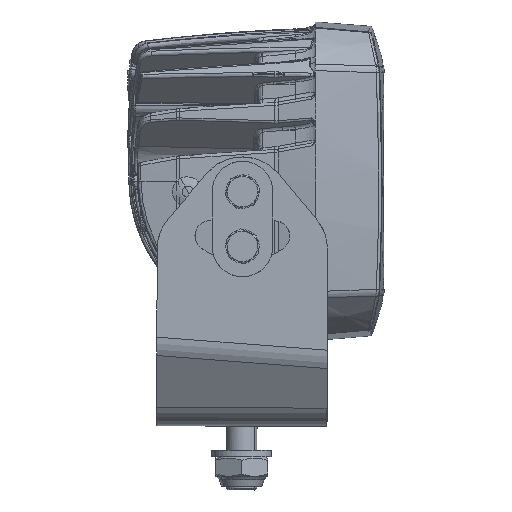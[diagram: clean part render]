
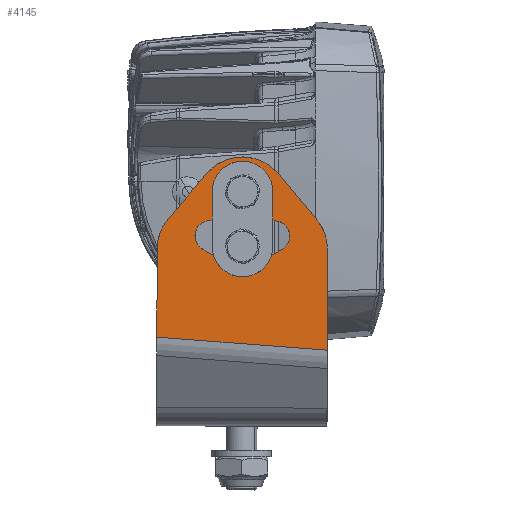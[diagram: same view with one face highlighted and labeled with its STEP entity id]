
A CAD part, front view. The second image highlights one B-rep face of the part: STEP entity #4145.
In plain terms, the highlighted planar face has unit normal (0, -1, 0).
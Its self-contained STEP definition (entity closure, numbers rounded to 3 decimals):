
#3741=AXIS2_PLACEMENT_3D('Circle Axis2P3D',#3739,#3740,$) ;
#3813=AXIS2_PLACEMENT_3D('Circle Axis2P3D',#3811,#3812,$) ;
#3861=AXIS2_PLACEMENT_3D('Circle Axis2P3D',#3859,#3860,$) ;
#3878=AXIS2_PLACEMENT_3D('Circle Axis2P3D',#3876,#3877,$) ;
#3916=AXIS2_PLACEMENT_3D('Circle Axis2P3D',#3914,#3915,$) ;
#3964=AXIS2_PLACEMENT_3D('Circle Axis2P3D',#3962,#3963,$) ;
#4012=AXIS2_PLACEMENT_3D('Circle Axis2P3D',#4010,#4011,$) ;
#4083=AXIS2_PLACEMENT_3D('Plane Axis2P3D',#4080,#4081,#4082) ;
#3476=CARTESIAN_POINT('Vertex',(30.844,-62.05,-55.625)) ;
#3699=CARTESIAN_POINT('Vertex',(-25.144,-62.05,-51.322)) ;
#3736=CARTESIAN_POINT('Vertex',(16.465,-62.05,-22.134)) ;
#3739=CARTESIAN_POINT('Axis2P3D Location',(13.538,-62.05,-18.08)) ;
#3743=CARTESIAN_POINT('Vertex',(12.956,-62.05,-13.114)) ;
#3808=CARTESIAN_POINT('Vertex',(-6.956,-62.05,-13.063)) ;
#3811=CARTESIAN_POINT('Axis2P3D Location',(-7.622,-62.05,-18.018)) ;
#3815=CARTESIAN_POINT('Vertex',(-10.573,-62.05,-22.055)) ;
#3856=CARTESIAN_POINT('Vertex',(12.512,-62.05,-24.428)) ;
#3859=CARTESIAN_POINT('Axis2P3D Location',(3.,-62.05,-3.487)) ;
#3876=CARTESIAN_POINT('Axis2P3D Location',(3.,-62.05,-3.487)) ;
#3880=CARTESIAN_POINT('Vertex',(-6.512,-62.05,-24.428)) ;
#3911=CARTESIAN_POINT('Vertex',(-25.063,-62.05,-22.254)) ;
#3914=CARTESIAN_POINT('Axis2P3D Location',(-10.063,-62.05,-22.296)) ;
#3918=CARTESIAN_POINT('Vertex',(-21.527,-62.05,-12.622)) ;
#3938=CARTESIAN_POINT('Line Origine',(-15.173,-62.05,-5.092)) ;
#3942=CARTESIAN_POINT('Vertex',(-8.818,-62.05,2.438)) ;
#3962=CARTESIAN_POINT('Axis2P3D Location',(2.978,-62.05,-7.516)) ;
#3966=CARTESIAN_POINT('Vertex',(14.829,-62.05,2.373)) ;
#3986=CARTESIAN_POINT('Line Origine',(21.142,-62.05,-5.193)) ;
#3990=CARTESIAN_POINT('Vertex',(27.454,-62.05,-12.758)) ;
#4010=CARTESIAN_POINT('Axis2P3D Location',(15.937,-62.05,-22.368)) ;
#4014=CARTESIAN_POINT('Vertex',(30.937,-62.05,-22.41)) ;
#4034=CARTESIAN_POINT('Line Origine',(30.891,-62.05,-39.017)) ;
#4051=CARTESIAN_POINT('Line Origine',(-2.526,-62.05,-53.06)) ;
#4068=CARTESIAN_POINT('Line Origine',(-25.103,-62.05,-36.788)) ;
#4080=CARTESIAN_POINT('Axis2P3D Location',(2.757,-62.05,-87.058)) ;
#4096=CARTESIAN_POINT('Control Point',(-6.956,-62.05,-13.063)) ;
#4097=CARTESIAN_POINT('Control Point',(-6.956,-62.05,-3.487)) ;
#4098=CARTESIAN_POINT('Vertex',(-6.956,-62.05,-3.487)) ;
#4102=CARTESIAN_POINT('Control Point',(12.956,-62.05,-3.487)) ;
#4103=CARTESIAN_POINT('Control Point',(12.956,-62.05,-1.923)) ;
#4104=CARTESIAN_POINT('Control Point',(12.649,-62.05,-0.359)) ;
#4105=CARTESIAN_POINT('Control Point',(12.035,-62.05,1.124)) ;
#4106=CARTESIAN_POINT('Control Point',(10.257,-62.05,3.77)) ;
#4107=CARTESIAN_POINT('Control Point',(7.611,-62.05,5.548)) ;
#4108=CARTESIAN_POINT('Control Point',(6.128,-62.05,6.162)) ;
#4109=CARTESIAN_POINT('Control Point',(3.,-62.05,6.776)) ;
#4110=CARTESIAN_POINT('Control Point',(-0.128,-62.05,6.162)) ;
#4111=CARTESIAN_POINT('Control Point',(-1.611,-62.05,5.548)) ;
#4112=CARTESIAN_POINT('Control Point',(-4.257,-62.05,3.77)) ;
#4113=CARTESIAN_POINT('Control Point',(-6.035,-62.05,1.124)) ;
#4114=CARTESIAN_POINT('Control Point',(-6.649,-62.05,-0.359)) ;
#4115=CARTESIAN_POINT('Control Point',(-6.956,-62.05,-1.923)) ;
#4116=CARTESIAN_POINT('Control Point',(-6.956,-62.05,-3.487)) ;
#4117=CARTESIAN_POINT('Vertex',(12.956,-62.05,-3.487)) ;
#4121=CARTESIAN_POINT('Control Point',(12.956,-62.05,-13.114)) ;
#4122=CARTESIAN_POINT('Control Point',(12.956,-62.05,-3.487)) ;
#4125=CARTESIAN_POINT('Control Point',(-6.512,-62.05,-24.428)) ;
#4126=CARTESIAN_POINT('Control Point',(-5.765,-62.05,-26.846)) ;
#4127=CARTESIAN_POINT('Control Point',(-4.249,-62.05,-29.026)) ;
#4128=CARTESIAN_POINT('Control Point',(-2.062,-62.05,-30.639)) ;
#4129=CARTESIAN_POINT('Control Point',(3.,-62.05,-32.248)) ;
#4130=CARTESIAN_POINT('Control Point',(8.062,-62.05,-30.639)) ;
#4131=CARTESIAN_POINT('Control Point',(10.249,-62.05,-29.026)) ;
#4132=CARTESIAN_POINT('Control Point',(11.765,-62.05,-26.846)) ;
#4133=CARTESIAN_POINT('Control Point',(12.512,-62.05,-24.428)) ;
#3740=DIRECTION('Axis2P3D Direction',(0.,-1.,0.)) ;
#3812=DIRECTION('Axis2P3D Direction',(0.,-1.,0.)) ;
#3860=DIRECTION('Axis2P3D Direction',(0.,-1.,0.)) ;
#3877=DIRECTION('Axis2P3D Direction',(0.,-1.,0.)) ;
#3915=DIRECTION('Axis2P3D Direction',(0.,-1.,0.)) ;
#3939=DIRECTION('Vector Direction',(-0.645,0.,-0.764)) ;
#3963=DIRECTION('Axis2P3D Direction',(0.,-1.,0.)) ;
#3987=DIRECTION('Vector Direction',(-0.641,0.,0.768)) ;
#4011=DIRECTION('Axis2P3D Direction',(0.,-1.,0.)) ;
#4035=DIRECTION('Vector Direction',(0.003,0.,1.)) ;
#4052=DIRECTION('Vector Direction',(-0.997,0.,0.077)) ;
#4069=DIRECTION('Vector Direction',(-0.003,0.,-1.)) ;
#4081=DIRECTION('Axis2P3D Direction',(0.,-1.,0.)) ;
#4082=DIRECTION('Axis2P3D XDirection',(-0.942,0.,0.335)) ;
#3940=VECTOR('Line Direction',#3939,1.) ;
#3988=VECTOR('Line Direction',#3987,1.) ;
#4036=VECTOR('Line Direction',#4035,1.) ;
#4053=VECTOR('Line Direction',#4052,1.) ;
#4070=VECTOR('Line Direction',#4069,1.) ;
#4086=ORIENTED_EDGE('',*,*,#4072,.T.) ;
#4087=ORIENTED_EDGE('',*,*,#4055,.F.) ;
#4088=ORIENTED_EDGE('',*,*,#4038,.T.) ;
#4089=ORIENTED_EDGE('',*,*,#4016,.F.) ;
#4090=ORIENTED_EDGE('',*,*,#3992,.T.) ;
#4091=ORIENTED_EDGE('',*,*,#3968,.T.) ;
#4092=ORIENTED_EDGE('',*,*,#3944,.T.) ;
#4093=ORIENTED_EDGE('',*,*,#3920,.F.) ;
#4136=ORIENTED_EDGE('',*,*,#4100,.T.) ;
#4137=ORIENTED_EDGE('',*,*,#4119,.T.) ;
#4138=ORIENTED_EDGE('',*,*,#4123,.T.) ;
#4139=ORIENTED_EDGE('',*,*,#3745,.F.) ;
#4140=ORIENTED_EDGE('',*,*,#3863,.T.) ;
#4141=ORIENTED_EDGE('',*,*,#4134,.T.) ;
#4142=ORIENTED_EDGE('',*,*,#3882,.T.) ;
#4143=ORIENTED_EDGE('',*,*,#3817,.T.) ;
#4144=FACE_BOUND('',#4135,.T.) ;
#4145=ADVANCED_FACE('Bracket',(#4094,#4144),#4084,.T.) ;
#4095=B_SPLINE_CURVE_WITH_KNOTS('',1,(#4096,#4097),.UNSPECIFIED.,.F.,.U.,(2,2),(-0.576,9.),.UNSPECIFIED.) ;
#4101=B_SPLINE_CURVE_WITH_KNOTS('',5,(#4102,#4103,#4104,#4105,#4106,#4107,#4108,#4109,#4110,#4111,#4112,#4113,#4114,#4115,#4116),.UNSPECIFIED.,.F.,.U.,(6,3,3,3,6),(34.682,42.502,50.321,58.141,65.961),.UNSPECIFIED.) ;
#4120=B_SPLINE_CURVE_WITH_KNOTS('',1,(#4121,#4122),.UNSPECIFIED.,.F.,.U.,(2,2),(-0.627,9.),.UNSPECIFIED.) ;
#4124=B_SPLINE_CURVE_WITH_KNOTS('',5,(#4125,#4126,#4127,#4128,#4129,#4130,#4131,#4132,#4133),.UNSPECIFIED.,.F.,.U.,(6,3,6),(68.946,81.6,94.255),.UNSPECIFIED.) ;
#3742=CIRCLE('generated circle',#3741,5.) ;
#3814=CIRCLE('generated circle',#3813,5.) ;
#3862=CIRCLE('generated circle',#3861,23.) ;
#3879=CIRCLE('generated circle',#3878,23.) ;
#3917=CIRCLE('generated circle',#3916,15.) ;
#3965=CIRCLE('generated circle',#3964,15.435) ;
#4013=CIRCLE('generated circle',#4012,15.) ;
#3745=EDGE_CURVE('',#3737,#3744,#3742,.T.) ;
#3817=EDGE_CURVE('',#3816,#3809,#3814,.F.) ;
#3863=EDGE_CURVE('',#3737,#3857,#3862,.F.) ;
#3882=EDGE_CURVE('',#3881,#3816,#3879,.F.) ;
#3920=EDGE_CURVE('',#3912,#3919,#3917,.F.) ;
#3944=EDGE_CURVE('',#3943,#3919,#3941,.T.) ;
#3968=EDGE_CURVE('',#3967,#3943,#3965,.T.) ;
#3992=EDGE_CURVE('',#3991,#3967,#3989,.T.) ;
#4016=EDGE_CURVE('',#3991,#4015,#4013,.F.) ;
#4038=EDGE_CURVE('',#3477,#4015,#4037,.T.) ;
#4055=EDGE_CURVE('',#3477,#3700,#4054,.T.) ;
#4072=EDGE_CURVE('',#3912,#3700,#4071,.T.) ;
#4100=EDGE_CURVE('',#3809,#4099,#4095,.T.) ;
#4119=EDGE_CURVE('',#4099,#4118,#4101,.F.) ;
#4123=EDGE_CURVE('',#4118,#3744,#4120,.F.) ;
#4134=EDGE_CURVE('',#3857,#3881,#4124,.F.) ;
#4085=EDGE_LOOP('',(#4086,#4087,#4088,#4089,#4090,#4091,#4092,#4093)) ;
#4135=EDGE_LOOP('',(#4136,#4137,#4138,#4139,#4140,#4141,#4142,#4143)) ;
#4094=FACE_OUTER_BOUND('',#4085,.T.) ;
#3941=LINE('Line',#3938,#3940) ;
#3989=LINE('Line',#3986,#3988) ;
#4037=LINE('Line',#4034,#4036) ;
#4054=LINE('Line',#4051,#4053) ;
#4071=LINE('Line',#4068,#4070) ;
#4084=PLANE('',#4083) ;
#3477=VERTEX_POINT('',#3476) ;
#3700=VERTEX_POINT('',#3699) ;
#3737=VERTEX_POINT('',#3736) ;
#3744=VERTEX_POINT('',#3743) ;
#3809=VERTEX_POINT('',#3808) ;
#3816=VERTEX_POINT('',#3815) ;
#3857=VERTEX_POINT('',#3856) ;
#3881=VERTEX_POINT('',#3880) ;
#3912=VERTEX_POINT('',#3911) ;
#3919=VERTEX_POINT('',#3918) ;
#3943=VERTEX_POINT('',#3942) ;
#3967=VERTEX_POINT('',#3966) ;
#3991=VERTEX_POINT('',#3990) ;
#4015=VERTEX_POINT('',#4014) ;
#4099=VERTEX_POINT('',#4098) ;
#4118=VERTEX_POINT('',#4117) ;
